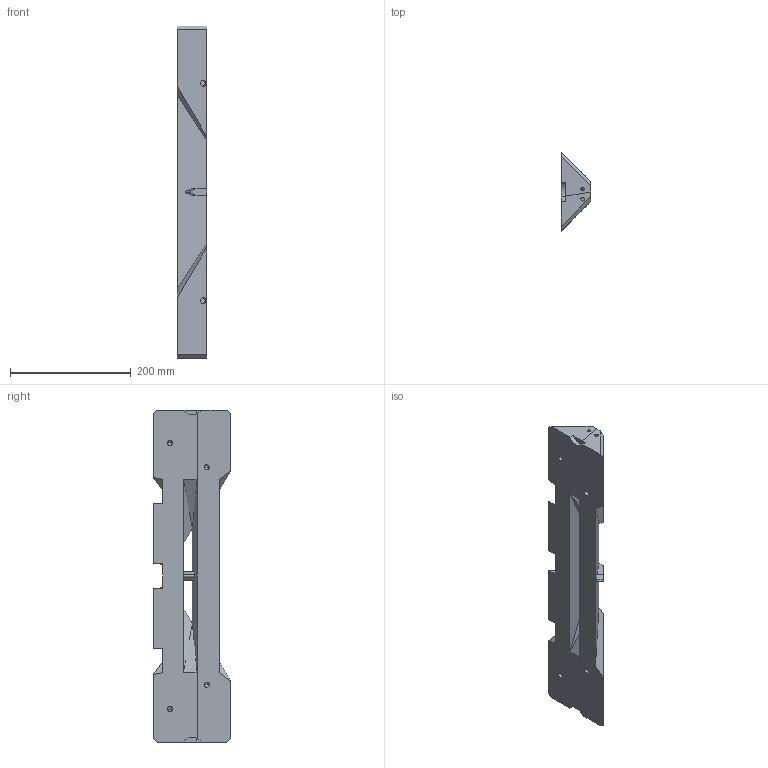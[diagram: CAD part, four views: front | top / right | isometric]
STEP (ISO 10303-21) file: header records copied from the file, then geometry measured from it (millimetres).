
FILE_DESCRIPTION((''),'2;1');
FILE_NAME('MG303618_KON_3X_TREAD_160_G0_ASM','2021-07-28T18:20:06',('basilro001'),(''),'CREO PARAMETRIC BY PTC INC, 2020342','CREO PARAMETRIC BY PTC INC, 2020342','');
FILE_SCHEMA(('CONFIG_CONTROL_DESIGN'));
Length unit declared in the file: millimetre
Products named in the file (5): KON_3PLEX_TREAD_X1_LOWER_160; KON_3PLEX_TREAD_X1_UPPER_160; VITI_M10X45_DIN912; SPINA_10_22; MG303618_KON_3X_TREAD_160_G0_ASM
Assembly tree (6 placements, depth 2):
  MG303618_KON_3X_TREAD_160_G0_ASM
    KON_3PLEX_TREAD_X1_LOWER_160
    KON_3PLEX_TREAD_X1_UPPER_160
    VITI_M10X45_DIN912  x2
    SPINA_10_22  x2
Bounding box: 48.2 x 129 x 550 mm (x, y, z)
Volume: 1645609 mm3; surface area: 229963.5 mm2
Topology: 6 solids, 6 shells, 193 faces, 471 edges, 290 vertices
Faces by surface type: plane 92, cylinder 66, cone 28, torus 4, bspline 3
Entity records: 5124 total; most frequent: CARTESIAN_POINT 1086, DIRECTION 813, ORIENTED_EDGE 798, EDGE_CURVE 399, AXIS2_PLACEMENT_3D 273, VECTOR 267, LINE 267, VERTEX_POINT 256
